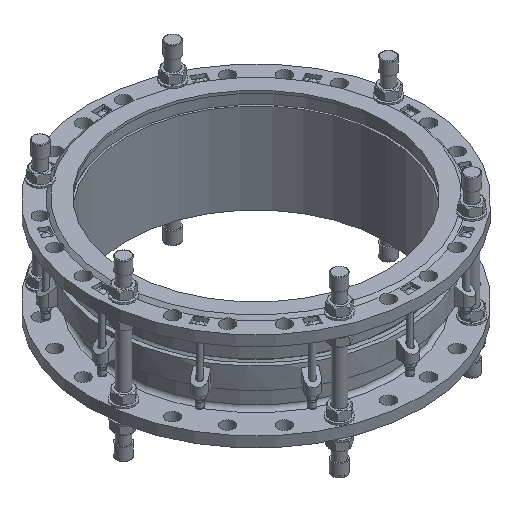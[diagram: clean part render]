
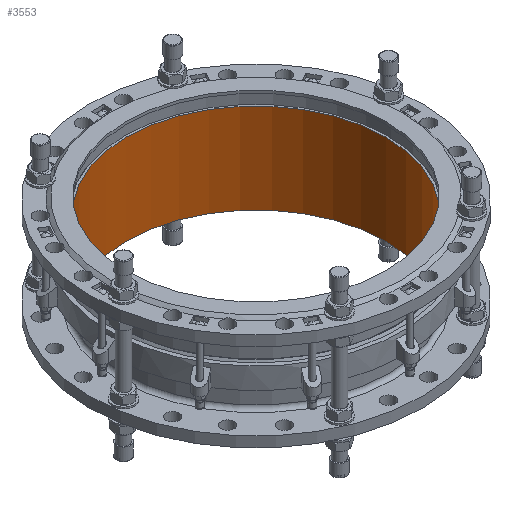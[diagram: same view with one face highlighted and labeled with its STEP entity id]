
A CAD part, isometric view. The second image highlights one B-rep face of the part: STEP entity #3553.
In plain terms, the highlighted cylindrical face has radius 400 mm (diameter 800 mm), a full revolution.
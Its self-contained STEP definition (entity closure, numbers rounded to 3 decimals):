
#3553=ADVANCED_FACE('',(#4354,#4356),#4358,.F.);
#4354=FACE_OUTER_BOUND('',#4355,.T.);
#4355=EDGE_LOOP('',(#7754));
#4356=FACE_OUTER_BOUND('',#4357,.T.);
#4357=EDGE_LOOP('',(#7755));
#4358=CYLINDRICAL_SURFACE('',#4359,400.);
#4359=AXIS2_PLACEMENT_3D('',#4360,#4361,#4362);
#4360=CARTESIAN_POINT('',(0.,0.,0.));
#4361=DIRECTION('',(0.,0.,1.));
#4362=DIRECTION('',(-1.,0.,0.));
#7754=ORIENTED_EDGE('',*,*,#10129,.F.);
#7755=ORIENTED_EDGE('',*,*,#10130,.F.);
#10129=EDGE_CURVE('',#11232,#11232,#11233,.T.);
#10130=EDGE_CURVE('',#11234,#11234,#11235,.T.);
#11232=VERTEX_POINT('',#13131);
#11233=CIRCLE('',#13132,400.);
#11234=VERTEX_POINT('',#13136);
#11235=CIRCLE('',#13137,400.);
#13131=CARTESIAN_POINT('',(-400.,0.,278.));
#13132=AXIS2_PLACEMENT_3D('',#13133,#13134,#13135);
#13133=CARTESIAN_POINT('',(0.,0.,278.));
#13134=DIRECTION('',(0.,0.,-1.));
#13135=DIRECTION('',(-1.,0.,0.));
#13136=CARTESIAN_POINT('',(-400.,0.,0.));
#13137=AXIS2_PLACEMENT_3D('',#13138,#13139,#13140);
#13138=CARTESIAN_POINT('',(0.,0.,0.));
#13139=DIRECTION('',(0.,0.,1.));
#13140=DIRECTION('',(-1.,0.,0.));
